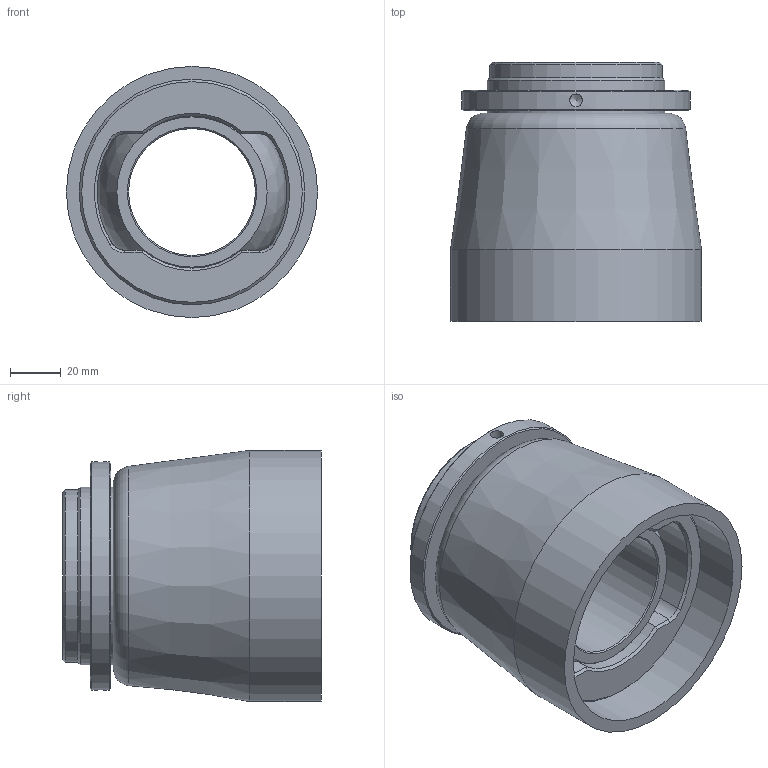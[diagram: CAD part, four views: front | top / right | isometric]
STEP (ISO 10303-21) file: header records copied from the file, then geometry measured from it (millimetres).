
FILE_DESCRIPTION(('STEP AP214'),'1');
FILE_NAME('Z:/J/Jp3/Palier/Palier-type1/3D TopSolid 2011/Serie 10.xx.xx/10.14.xx/10.14.05.step','2012-02-23T13:26:01',(' '),(' '),'Spatial InterOp 3D',' ',' ');
FILE_SCHEMA(('automotive_design'));
Length unit declared in the file: metre
Products named in the file (4): écrou; boitier 05; rotule 05; housing
Bounding box: 99 x 102.1 x 99 mm (x, y, z)
Volume: 355106.4 mm3; surface area: 121880 mm2
Topology: 4 solids, 4 shells, 67 faces, 142 edges, 85 vertices
Faces by surface type: cylinder 22, cone 21, plane 19, torus 3, sphere 2
Full cylindrical faces by diameter (mm): 5 x2, 50 x1, 59 x1, 60 x1, 68 x2, 70 x3, 89 x2, 90 x1, 99 x1
Entity records: 2359 total; most frequent: CARTESIAN_POINT 451, DIRECTION 298, ORIENTED_EDGE 204, AXIS2_PLACEMENT_3D 135, EDGE_LOOP 110, EDGE_CURVE 102, FACE_OUTER_BOUND 86, VERTEX_POINT 80
